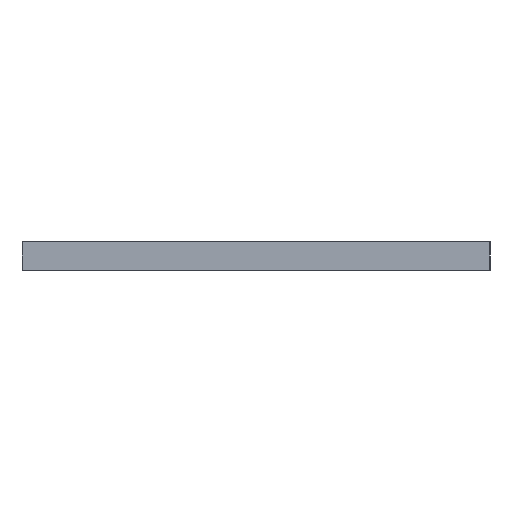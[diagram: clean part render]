
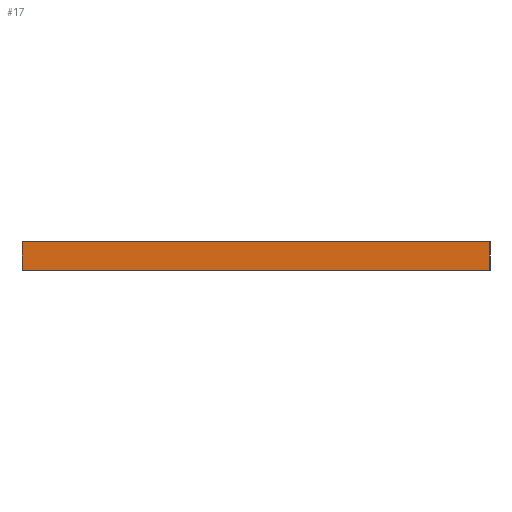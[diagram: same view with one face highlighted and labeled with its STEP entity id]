
A CAD part, left-side view. The second image highlights one B-rep face of the part: STEP entity #17.
In plain terms, the highlighted planar face has unit normal (-1, 0, 0).
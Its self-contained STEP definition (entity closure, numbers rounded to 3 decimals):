
#17 = ADVANCED_FACE('',(#18),#32,.F.);
#18 = FACE_BOUND('',#19,.F.);
#19 = EDGE_LOOP('',(#20,#55,#83,#111));
#20 = ORIENTED_EDGE('',*,*,#21,.F.);
#21 = EDGE_CURVE('',#22,#24,#26,.T.);
#22 = VERTEX_POINT('',#23);
#23 = CARTESIAN_POINT('',(-120.,-32.5,0.));
#24 = VERTEX_POINT('',#25);
#25 = CARTESIAN_POINT('',(-120.,-32.5,4.));
#26 = SURFACE_CURVE('',#27,(#31,#43),.PCURVE_S1.);
#27 = LINE('',#28,#29);
#28 = CARTESIAN_POINT('',(-120.,-32.5,0.));
#29 = VECTOR('',#30,1.);
#30 = DIRECTION('',(0.,0.,1.));
#31 = PCURVE('',#32,#37);
#32 = PLANE('',#33);
#33 = AXIS2_PLACEMENT_3D('',#34,#35,#36);
#34 = CARTESIAN_POINT('',(-120.,-32.5,0.));
#35 = DIRECTION('',(1.,0.,0.));
#36 = DIRECTION('',(0.,0.,1.));
#37 = DEFINITIONAL_REPRESENTATION('',(#38),#42);
#38 = LINE('',#39,#40);
#39 = CARTESIAN_POINT('',(0.,0.));
#40 = VECTOR('',#41,1.);
#41 = DIRECTION('',(1.,0.));
#42 = ( GEOMETRIC_REPRESENTATION_CONTEXT(2) 
PARAMETRIC_REPRESENTATION_CONTEXT() REPRESENTATION_CONTEXT('2D SPACE',''
  ) );
#43 = PCURVE('',#44,#49);
#44 = PLANE('',#45);
#45 = AXIS2_PLACEMENT_3D('',#46,#47,#48);
#46 = CARTESIAN_POINT('',(-120.,-32.5,0.));
#47 = DIRECTION('',(0.,1.,0.));
#48 = DIRECTION('',(0.,0.,1.));
#49 = DEFINITIONAL_REPRESENTATION('',(#50),#54);
#50 = LINE('',#51,#52);
#51 = CARTESIAN_POINT('',(0.,0.));
#52 = VECTOR('',#53,1.);
#53 = DIRECTION('',(1.,0.));
#54 = ( GEOMETRIC_REPRESENTATION_CONTEXT(2) 
PARAMETRIC_REPRESENTATION_CONTEXT() REPRESENTATION_CONTEXT('2D SPACE',''
  ) );
#55 = ORIENTED_EDGE('',*,*,#56,.T.);
#56 = EDGE_CURVE('',#22,#57,#59,.T.);
#57 = VERTEX_POINT('',#58);
#58 = CARTESIAN_POINT('',(-120.,32.5,0.));
#59 = SURFACE_CURVE('',#60,(#64,#71),.PCURVE_S1.);
#60 = LINE('',#61,#62);
#61 = CARTESIAN_POINT('',(-120.,-32.5,0.));
#62 = VECTOR('',#63,1.);
#63 = DIRECTION('',(0.,1.,0.));
#64 = PCURVE('',#32,#65);
#65 = DEFINITIONAL_REPRESENTATION('',(#66),#70);
#66 = LINE('',#67,#68);
#67 = CARTESIAN_POINT('',(0.,0.));
#68 = VECTOR('',#69,1.);
#69 = DIRECTION('',(0.,-1.));
#70 = ( GEOMETRIC_REPRESENTATION_CONTEXT(2) 
PARAMETRIC_REPRESENTATION_CONTEXT() REPRESENTATION_CONTEXT('2D SPACE',''
  ) );
#71 = PCURVE('',#72,#77);
#72 = PLANE('',#73);
#73 = AXIS2_PLACEMENT_3D('',#74,#75,#76);
#74 = CARTESIAN_POINT('',(-120.,-32.5,0.));
#75 = DIRECTION('',(0.,0.,1.));
#76 = DIRECTION('',(1.,0.,0.));
#77 = DEFINITIONAL_REPRESENTATION('',(#78),#82);
#78 = LINE('',#79,#80);
#79 = CARTESIAN_POINT('',(0.,0.));
#80 = VECTOR('',#81,1.);
#81 = DIRECTION('',(0.,1.));
#82 = ( GEOMETRIC_REPRESENTATION_CONTEXT(2) 
PARAMETRIC_REPRESENTATION_CONTEXT() REPRESENTATION_CONTEXT('2D SPACE',''
  ) );
#83 = ORIENTED_EDGE('',*,*,#84,.T.);
#84 = EDGE_CURVE('',#57,#85,#87,.T.);
#85 = VERTEX_POINT('',#86);
#86 = CARTESIAN_POINT('',(-120.,32.5,4.));
#87 = SURFACE_CURVE('',#88,(#92,#99),.PCURVE_S1.);
#88 = LINE('',#89,#90);
#89 = CARTESIAN_POINT('',(-120.,32.5,0.));
#90 = VECTOR('',#91,1.);
#91 = DIRECTION('',(0.,0.,1.));
#92 = PCURVE('',#32,#93);
#93 = DEFINITIONAL_REPRESENTATION('',(#94),#98);
#94 = LINE('',#95,#96);
#95 = CARTESIAN_POINT('',(0.,-65.));
#96 = VECTOR('',#97,1.);
#97 = DIRECTION('',(1.,0.));
#98 = ( GEOMETRIC_REPRESENTATION_CONTEXT(2) 
PARAMETRIC_REPRESENTATION_CONTEXT() REPRESENTATION_CONTEXT('2D SPACE',''
  ) );
#99 = PCURVE('',#100,#105);
#100 = PLANE('',#101);
#101 = AXIS2_PLACEMENT_3D('',#102,#103,#104);
#102 = CARTESIAN_POINT('',(-120.,32.5,0.));
#103 = DIRECTION('',(0.,1.,0.));
#104 = DIRECTION('',(0.,0.,1.));
#105 = DEFINITIONAL_REPRESENTATION('',(#106),#110);
#106 = LINE('',#107,#108);
#107 = CARTESIAN_POINT('',(0.,0.));
#108 = VECTOR('',#109,1.);
#109 = DIRECTION('',(1.,0.));
#110 = ( GEOMETRIC_REPRESENTATION_CONTEXT(2) 
PARAMETRIC_REPRESENTATION_CONTEXT() REPRESENTATION_CONTEXT('2D SPACE',''
  ) );
#111 = ORIENTED_EDGE('',*,*,#112,.F.);
#112 = EDGE_CURVE('',#24,#85,#113,.T.);
#113 = SURFACE_CURVE('',#114,(#118,#125),.PCURVE_S1.);
#114 = LINE('',#115,#116);
#115 = CARTESIAN_POINT('',(-120.,-32.5,4.));
#116 = VECTOR('',#117,1.);
#117 = DIRECTION('',(0.,1.,0.));
#118 = PCURVE('',#32,#119);
#119 = DEFINITIONAL_REPRESENTATION('',(#120),#124);
#120 = LINE('',#121,#122);
#121 = CARTESIAN_POINT('',(4.,0.));
#122 = VECTOR('',#123,1.);
#123 = DIRECTION('',(0.,-1.));
#124 = ( GEOMETRIC_REPRESENTATION_CONTEXT(2) 
PARAMETRIC_REPRESENTATION_CONTEXT() REPRESENTATION_CONTEXT('2D SPACE',''
  ) );
#125 = PCURVE('',#126,#131);
#126 = PLANE('',#127);
#127 = AXIS2_PLACEMENT_3D('',#128,#129,#130);
#128 = CARTESIAN_POINT('',(-120.,-32.5,4.));
#129 = DIRECTION('',(0.,0.,1.));
#130 = DIRECTION('',(1.,0.,0.));
#131 = DEFINITIONAL_REPRESENTATION('',(#132),#136);
#132 = LINE('',#133,#134);
#133 = CARTESIAN_POINT('',(0.,0.));
#134 = VECTOR('',#135,1.);
#135 = DIRECTION('',(0.,1.));
#136 = ( GEOMETRIC_REPRESENTATION_CONTEXT(2) 
PARAMETRIC_REPRESENTATION_CONTEXT() REPRESENTATION_CONTEXT('2D SPACE',''
  ) );
